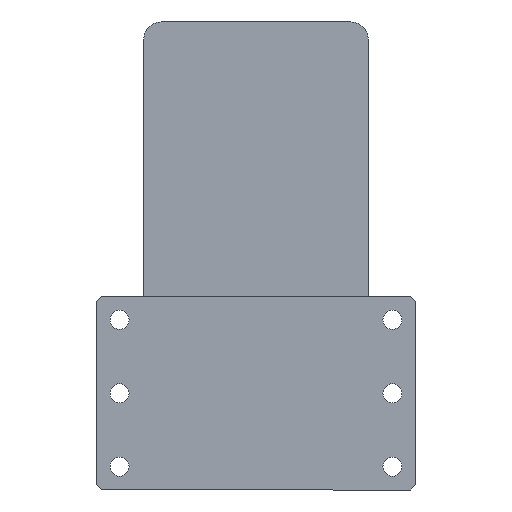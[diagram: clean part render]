
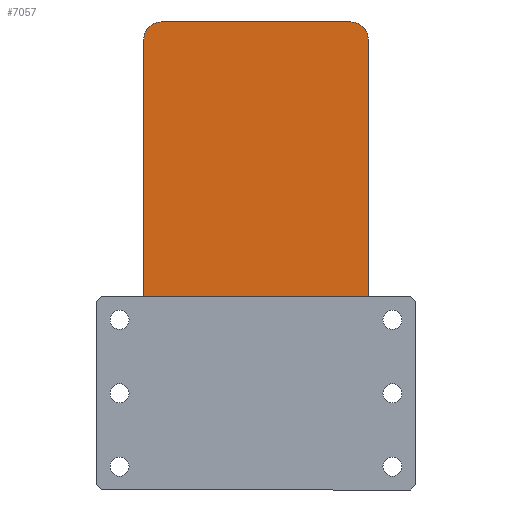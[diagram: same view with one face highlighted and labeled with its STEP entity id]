
A CAD part, left-side view. The second image highlights one B-rep face of the part: STEP entity #7057.
In plain terms, the highlighted planar face has unit normal (-1, 0, 0) as drawn and (0, 0, 1) by its records, which use the part's own axes.
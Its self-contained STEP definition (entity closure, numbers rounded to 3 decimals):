
#81 = FACE_OUTER_BOUND ( 'NONE', #2013, .T. ) ;
#211 = EDGE_CURVE ( 'NONE', #8819, #9381, #4631, .T. ) ;
#304 = EDGE_CURVE ( 'NONE', #11156, #4765, #4537, .T. ) ;
#427 = EDGE_CURVE ( 'NONE', #2782, #10002, #4565, .T. ) ;
#435 = VERTEX_POINT ( 'NONE', #4890 ) ;
#492 = EDGE_CURVE ( 'NONE', #435, #8159, #4178, .T. ) ;
#550 = EDGE_CURVE ( 'NONE', #8159, #8819, #4151, .T. ) ;
#572 = EDGE_CURVE ( 'NONE', #9381, #11156, #3990, .T. ) ;
#592 = EDGE_CURVE ( 'NONE', #4765, #2782, #4031, .T. ) ;
#614 = EDGE_CURVE ( 'NONE', #10002, #435, #3968, .T. ) ;
#1184 = CARTESIAN_POINT ( 'NONE',  ( -55., -125., 105. ) ) ;
#1592 = CARTESIAN_POINT ( 'NONE',  ( 55., -135., 105. ) ) ;
#2013 = EDGE_LOOP ( 'NONE', ( #7159, #7180, #7323, #7412, #7498, #7682, #7747, #7856 ) ) ;
#2062 = CARTESIAN_POINT ( 'NONE',  ( 65., 125., 105. ) ) ;
#2370 = AXIS2_PLACEMENT_3D ( 'NONE', #1184, #4328, #4527 ) ;
#2425 = AXIS2_PLACEMENT_3D ( 'NONE', #6452, #6409, #6338 ) ;
#2476 = AXIS2_PLACEMENT_3D ( 'NONE', #6629, #6606, #6516 ) ;
#2548 = AXIS2_PLACEMENT_3D ( 'NONE', #6319, #6266, #6280 ) ;
#2782 = VERTEX_POINT ( 'NONE', #7514 ) ;
#3002 = CARTESIAN_POINT ( 'NONE',  ( -65., 135., 105. ) ) ;
#3512 = DIRECTION ( 'NONE',  ( 1., 0., 0. ) ) ;
#3525 = DIRECTION ( 'NONE',  ( 0., 0., 1. ) ) ;
#3552 = PLANE ( 'NONE',  #6733 ) ;
#3896 = CARTESIAN_POINT ( 'NONE',  ( 0., 0., 105. ) ) ;
#3968 = CIRCLE ( 'NONE', #2370, 10. ) ;
#3990 = CIRCLE ( 'NONE', #2476, 10. ) ;
#4031 = CIRCLE ( 'NONE', #2425, 10. ) ;
#4117 = CARTESIAN_POINT ( 'NONE',  ( 55., 135., 105. ) ) ;
#4142 = VECTOR ( 'NONE', #4612, 1000. ) ;
#4151 = CIRCLE ( 'NONE', #2548, 10. ) ;
#4178 = LINE ( 'NONE', #10447, #4142 ) ;
#4252 = VECTOR ( 'NONE', #5528, 1000. ) ;
#4328 = DIRECTION ( 'NONE',  ( 0., 0., 1. ) ) ;
#4499 = VECTOR ( 'NONE', #6589, 1000. ) ;
#4527 = DIRECTION ( 'NONE',  ( 1., 0., 0. ) ) ;
#4537 = LINE ( 'NONE', #3002, #4499 ) ;
#4565 = LINE ( 'NONE', #5613, #4252 ) ;
#4612 = DIRECTION ( 'NONE',  ( 1., 0., 0. ) ) ;
#4621 = VECTOR ( 'NONE', #6472, 1000. ) ;
#4631 = LINE ( 'NONE', #7045, #4621 ) ;
#4765 = VERTEX_POINT ( 'NONE', #6974 ) ;
#4890 = CARTESIAN_POINT ( 'NONE',  ( -55., -135., 105. ) ) ;
#5528 = DIRECTION ( 'NONE',  ( 0., -1., 0. ) ) ;
#5613 = CARTESIAN_POINT ( 'NONE',  ( -65., 135., 105. ) ) ;
#6266 = DIRECTION ( 'NONE',  ( 0., 0., 1. ) ) ;
#6280 = DIRECTION ( 'NONE',  ( 1., 0., 0. ) ) ;
#6319 = CARTESIAN_POINT ( 'NONE',  ( 55., -125., 105. ) ) ;
#6338 = DIRECTION ( 'NONE',  ( 1., 0., 0. ) ) ;
#6409 = DIRECTION ( 'NONE',  ( 0., 0., 1. ) ) ;
#6452 = CARTESIAN_POINT ( 'NONE',  ( -55., 125., 105. ) ) ;
#6472 = DIRECTION ( 'NONE',  ( 0., 1., 0. ) ) ;
#6516 = DIRECTION ( 'NONE',  ( 1., 0., 0. ) ) ;
#6589 = DIRECTION ( 'NONE',  ( -1., 0., 0. ) ) ;
#6606 = DIRECTION ( 'NONE',  ( 0., 0., 1. ) ) ;
#6629 = CARTESIAN_POINT ( 'NONE',  ( 55., 125., 105. ) ) ;
#6733 = AXIS2_PLACEMENT_3D ( 'NONE', #3896, #3525, #3512 ) ;
#6974 = CARTESIAN_POINT ( 'NONE',  ( -55., 135., 105. ) ) ;
#7045 = CARTESIAN_POINT ( 'NONE',  ( 65., 135., 105. ) ) ;
#7057 = ADVANCED_FACE ( 'NONE', ( #81 ), #3552, .T. ) ;
#7159 = ORIENTED_EDGE ( 'NONE', *, *, #492, .T. ) ;
#7180 = ORIENTED_EDGE ( 'NONE', *, *, #550, .T. ) ;
#7323 = ORIENTED_EDGE ( 'NONE', *, *, #211, .T. ) ;
#7412 = ORIENTED_EDGE ( 'NONE', *, *, #572, .T. ) ;
#7498 = ORIENTED_EDGE ( 'NONE', *, *, #304, .T. ) ;
#7514 = CARTESIAN_POINT ( 'NONE',  ( -65., 125., 105. ) ) ;
#7627 = CARTESIAN_POINT ( 'NONE',  ( 65., -125., 105. ) ) ;
#7682 = ORIENTED_EDGE ( 'NONE', *, *, #592, .T. ) ;
#7747 = ORIENTED_EDGE ( 'NONE', *, *, #427, .T. ) ;
#7856 = ORIENTED_EDGE ( 'NONE', *, *, #614, .T. ) ;
#8159 = VERTEX_POINT ( 'NONE', #1592 ) ;
#8819 = VERTEX_POINT ( 'NONE', #7627 ) ;
#9381 = VERTEX_POINT ( 'NONE', #2062 ) ;
#10002 = VERTEX_POINT ( 'NONE', #10955 ) ;
#10447 = CARTESIAN_POINT ( 'NONE',  ( -65., -135., 105. ) ) ;
#10955 = CARTESIAN_POINT ( 'NONE',  ( -65., -125., 105. ) ) ;
#11156 = VERTEX_POINT ( 'NONE', #4117 ) ;
